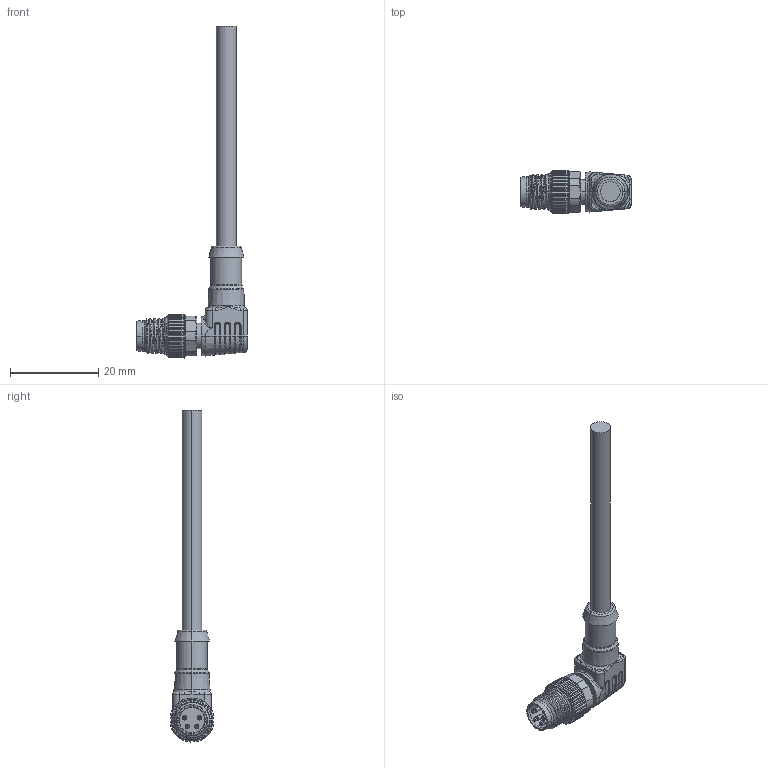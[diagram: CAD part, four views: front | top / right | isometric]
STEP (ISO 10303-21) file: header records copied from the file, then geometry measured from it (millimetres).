
FILE_DESCRIPTION (( 'STEP AP203' ), '1' );
FILE_NAME ('63S221-XXX.STEP', '2023-09-07T10:41:31', ( 'ADMIN' ), ( '' ), 'SwSTEP 2.0', 'SolidWorks 2016', '' );
FILE_SCHEMA (( 'CONFIG_CONTROL_DESIGN' ));
Length unit declared in the file: millimetre
Products named in the file (2): 63S221-XXX; 錨璃6^63S221&63S223
Assembly tree (1 placements, depth 2):
  63S221-XXX
    錨璃6^63S221&63S223
Bounding box: 25.1 x 9.99 x 75.45 mm (x, y, z)
Volume: 2812.1 mm3; surface area: 2887.9 mm2
Topology: 1 solids, 1 shells, 872 faces, 2355 edges, 1480 vertices
Faces by surface type: plane 320, cylinder 233, cone 116, bspline 107, torus 96
Entity records: 34543 total; most frequent: CARTESIAN_POINT 14767, ORIENTED_EDGE 4694, DIRECTION 3308, EDGE_CURVE 2347, VERTEX_POINT 1480, AXIS2_PLACEMENT_3D 1272, B_SPLINE_CURVE_WITH_KNOTS 1015, EDGE_LOOP 891
